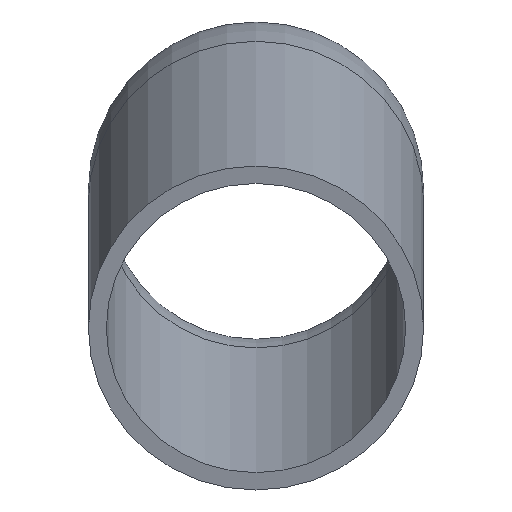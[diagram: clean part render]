
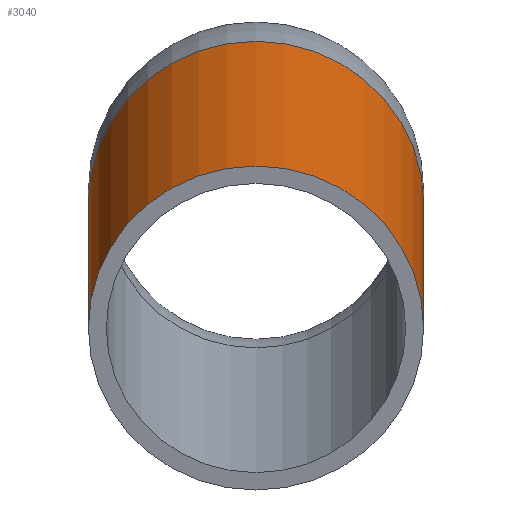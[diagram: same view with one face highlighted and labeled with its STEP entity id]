
A CAD part, top view. The second image highlights one B-rep face of the part: STEP entity #3040.
In plain terms, the highlighted cylindrical face has radius 14 mm (diameter 28 mm), a partial arc.
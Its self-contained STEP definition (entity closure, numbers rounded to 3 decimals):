
#1370=CARTESIAN_POINT('',(64.,48.841,138.324));
#1380=VERTEX_POINT('',#1370);
#1470=CARTESIAN_POINT('',(36.,48.841,138.324));
#1480=VERTEX_POINT('',#1470);
#1510=CARTESIAN_POINT('',(50.,48.841,138.324));
#1520=DIRECTION('',(0.,-0.259,0.966));
#1530=DIRECTION('',(1.,0.,0.));
#1540=AXIS2_PLACEMENT_3D('',#1510,#1520,#1530);
#1550=CIRCLE('',#1540,14.);
#1610=EDGE_CURVE('',#1380,#1480,#1550,.T.);
#2310=CARTESIAN_POINT('',(50.,38.353,177.467));
#2320=DIRECTION('',(0.,-0.259,0.966));
#2330=DIRECTION('',(1.,0.,0.));
#2340=AXIS2_PLACEMENT_3D('',#2310,#2320,#2330);
#2350=CIRCLE('',#2340,14.);
#2360=CARTESIAN_POINT('',(64.,38.353,177.467));
#2370=VERTEX_POINT('',#2360);
#2380=CARTESIAN_POINT('',(36.,38.353,177.467));
#2390=VERTEX_POINT('',#2380);
#2400=EDGE_CURVE('',#2370,#2390,#2350,.T.);
#2760=CARTESIAN_POINT('',(50.,48.841,138.324));
#2770=DIRECTION('',(0.,-0.259,0.966));
#2780=DIRECTION('',(1.,0.,0.));
#2790=AXIS2_PLACEMENT_3D('',#2760,#2770,#2780);
#2800=CYLINDRICAL_SURFACE('',#2790,14.);
#2810=CARTESIAN_POINT('',(64.,48.841,138.324));
#2820=DIRECTION('',(0.,-0.259,0.966));
#2830=VECTOR('',#2820,1.);
#2840=LINE('',#2810,#2830);
#2850=EDGE_CURVE('',#1380,#2370,#2840,.T.);
#2880=CARTESIAN_POINT('',(36.,48.841,138.324));
#2890=DIRECTION('',(0.,-0.259,0.966));
#2900=VECTOR('',#2890,1.);
#2910=LINE('',#2880,#2900);
#2920=EDGE_CURVE('',#1480,#2390,#2910,.T.);
#2980=ORIENTED_EDGE('',*,*,#1610,.T.);
#2990=ORIENTED_EDGE('',*,*,#2850,.F.);
#3000=ORIENTED_EDGE('',*,*,#2400,.F.);
#3010=ORIENTED_EDGE('',*,*,#2920,.T.);
#3020=EDGE_LOOP('',(#3010,#3000,#2990,#2980));
#3030=FACE_OUTER_BOUND('',#3020,.T.);
#3040=ADVANCED_FACE('',(#3030),#2800,.T.);
